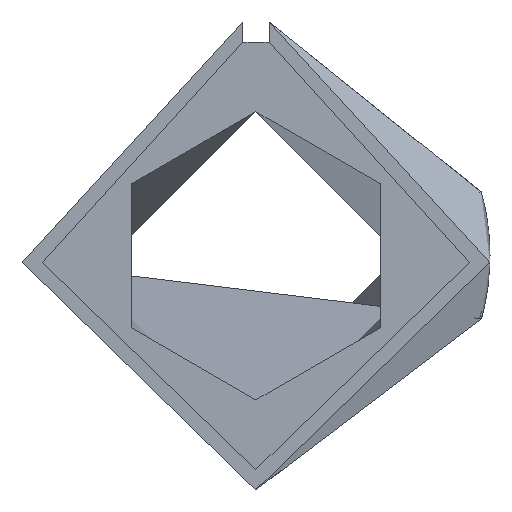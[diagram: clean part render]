
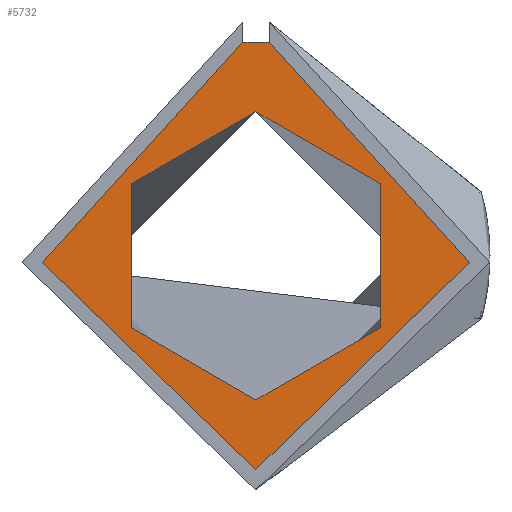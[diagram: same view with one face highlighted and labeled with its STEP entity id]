
A CAD part, left-side view. The second image highlights one B-rep face of the part: STEP entity #5732.
In plain terms, the highlighted planar face has unit normal (-1, 0, 0).
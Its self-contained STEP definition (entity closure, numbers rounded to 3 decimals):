
#128=PLANE('',#6178);
#585=CIRCLE('',#6153,8.);
#598=CIRCLE('',#6179,11.873);
#599=CIRCLE('',#6180,11.873);
#987=ORIENTED_EDGE('',*,*,#2714,.F.);
#988=ORIENTED_EDGE('',*,*,#2715,.F.);
#989=ORIENTED_EDGE('',*,*,#2679,.T.);
#2679=EDGE_CURVE('',#3549,#3549,#585,.F.);
#2714=EDGE_CURVE('',#3572,#3573,#598,.T.);
#2715=EDGE_CURVE('',#3573,#3572,#599,.T.);
#3549=VERTEX_POINT('',#8903);
#3572=VERTEX_POINT('',#8974);
#3573=VERTEX_POINT('',#8975);
#4917=EDGE_LOOP('',(#987,#988));
#4918=EDGE_LOOP('',(#989));
#5316=FACE_BOUND('',#4917,.T.);
#5317=FACE_BOUND('',#4918,.T.);
#5732=ADVANCED_FACE('',(#5316,#5317),#128,.T.);
#6153=AXIS2_PLACEMENT_3D('',#8902,#6742,#6743);
#6178=AXIS2_PLACEMENT_3D('',#8972,#6814,#6815);
#6179=AXIS2_PLACEMENT_3D('',#8973,#6816,#6817);
#6180=AXIS2_PLACEMENT_3D('',#8976,#6818,#6819);
#6742=DIRECTION('',(-1.,0.,0.));
#6743=DIRECTION('',(0.,0.,1.));
#6814=DIRECTION('',(-1.,0.,0.));
#6815=DIRECTION('',(0.,0.,-1.));
#6816=DIRECTION('',(1.,0.,0.));
#6817=DIRECTION('',(0.,0.,-1.));
#6818=DIRECTION('',(1.,0.,0.));
#6819=DIRECTION('',(0.,0.,-1.));
#8902=CARTESIAN_POINT('',(-16.5,0.,0.));
#8903=CARTESIAN_POINT('',(-16.5,0.,8.));
#8972=CARTESIAN_POINT('',(-16.5,0.,0.));
#8973=CARTESIAN_POINT('',(-16.5,0.,0.));
#8974=CARTESIAN_POINT('',(-16.5,0.75,11.85));
#8975=CARTESIAN_POINT('',(-16.5,-0.75,11.85));
#8976=CARTESIAN_POINT('',(-16.5,0.,0.));
